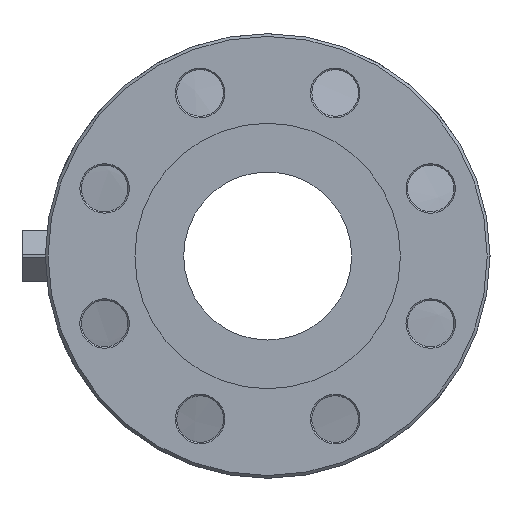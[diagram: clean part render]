
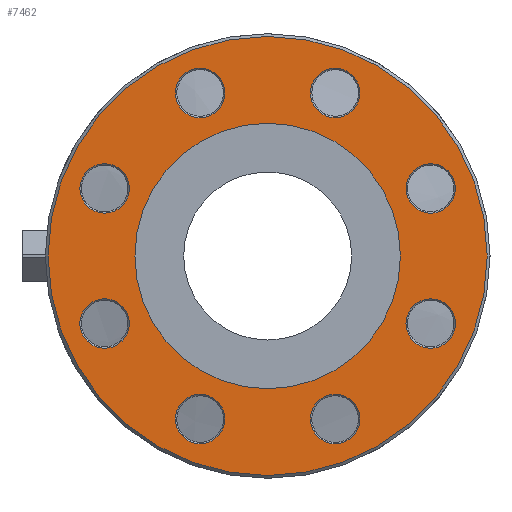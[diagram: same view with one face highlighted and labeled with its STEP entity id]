
A CAD part, left-side view. The second image highlights one B-rep face of the part: STEP entity #7462.
In plain terms, the highlighted planar face has unit normal (-1, 0, 0).
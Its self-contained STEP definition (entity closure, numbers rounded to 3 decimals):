
#7323=CARTESIAN_POINT('',(-137.,-60.21,-127.859));
#7324=VERTEX_POINT('',#7323);
#7325=CARTESIAN_POINT('',(-137.,-47.835,-115.485));
#7326=DIRECTION('',(-1.0,0.0,0.0));
#7327=DIRECTION('',(0.0,0.707,0.707));
#7328=AXIS2_PLACEMENT_3D('',#7325,#7326,#7327);
#7329=CIRCLE('',#7328,17.5);
#7330=EDGE_CURVE('',#7324,#7324,#7329,.T.);
#7355=CARTESIAN_POINT('',(-137.,-124.75,0.0));
#7356=DIRECTION('',(-1.0,0.0,0.0));
#7357=DIRECTION('',(0.0,0.0,1.0));
#7358=AXIS2_PLACEMENT_3D('',#7355,#7356,#7357);
#7359=PLANE('',#7358);
#7360=CARTESIAN_POINT('',(-137.,-155.5,0.0));
#7361=VERTEX_POINT('',#7360);
#7362=CARTESIAN_POINT('',(-137.,0.0,0.0));
#7363=DIRECTION('',(1.0,0.0,0.0));
#7364=DIRECTION('',(0.0,-1.0,0.0));
#7365=AXIS2_PLACEMENT_3D('',#7362,#7363,#7364);
#7366=CIRCLE('',#7365,155.5);
#7367=EDGE_CURVE('',#7361,#7361,#7366,.T.);
#7368=ORIENTED_EDGE('',*,*,#7367,.F.);
#7369=EDGE_LOOP('',(#7368));
#7370=FACE_OUTER_BOUND('',#7369,.T.);
#7371=CARTESIAN_POINT('',(-137.,-132.985,-47.835));
#7372=VERTEX_POINT('',#7371);
#7373=CARTESIAN_POINT('',(-137.,-115.485,-47.835));
#7374=DIRECTION('',(-1.0,0.0,0.0));
#7375=DIRECTION('',(0.0,1.0,0.0));
#7376=AXIS2_PLACEMENT_3D('',#7373,#7374,#7375);
#7377=CIRCLE('',#7376,17.5);
#7378=EDGE_CURVE('',#7372,#7372,#7377,.T.);
#7379=ORIENTED_EDGE('',*,*,#7378,.F.);
#7380=EDGE_LOOP('',(#7379));
#7381=FACE_BOUND('',#7380,.T.);
#7382=CARTESIAN_POINT('',(-137.,-47.835,132.985));
#7383=VERTEX_POINT('',#7382);
#7384=CARTESIAN_POINT('',(-137.,-47.835,115.485));
#7385=DIRECTION('',(-1.0,0.0,0.0));
#7386=DIRECTION('',(0.0,0.0,-1.0));
#7387=AXIS2_PLACEMENT_3D('',#7384,#7385,#7386);
#7388=CIRCLE('',#7387,17.5);
#7389=EDGE_CURVE('',#7383,#7383,#7388,.T.);
#7390=ORIENTED_EDGE('',*,*,#7389,.F.);
#7391=EDGE_LOOP('',(#7390));
#7392=FACE_BOUND('',#7391,.T.);
#7393=CARTESIAN_POINT('',(-137.,132.985,47.835));
#7394=VERTEX_POINT('',#7393);
#7395=CARTESIAN_POINT('',(-137.,115.485,47.835));
#7396=DIRECTION('',(-1.0,0.0,0.0));
#7397=DIRECTION('',(0.0,-1.0,0.0));
#7398=AXIS2_PLACEMENT_3D('',#7395,#7396,#7397);
#7399=CIRCLE('',#7398,17.5);
#7400=EDGE_CURVE('',#7394,#7394,#7399,.T.);
#7401=ORIENTED_EDGE('',*,*,#7400,.F.);
#7402=EDGE_LOOP('',(#7401));
#7403=FACE_BOUND('',#7402,.T.);
#7404=CARTESIAN_POINT('',(-137.,47.835,-132.985));
#7405=VERTEX_POINT('',#7404);
#7406=CARTESIAN_POINT('',(-137.,47.835,-115.485));
#7407=DIRECTION('',(-1.0,0.0,0.0));
#7408=DIRECTION('',(0.0,0.0,1.0));
#7409=AXIS2_PLACEMENT_3D('',#7406,#7407,#7408);
#7410=CIRCLE('',#7409,17.5);
#7411=EDGE_CURVE('',#7405,#7405,#7410,.T.);
#7412=ORIENTED_EDGE('',*,*,#7411,.F.);
#7413=EDGE_LOOP('',(#7412));
#7414=FACE_BOUND('',#7413,.T.);
#7415=CARTESIAN_POINT('',(-137.,-94.,0.0));
#7416=VERTEX_POINT('',#7415);
#7417=CARTESIAN_POINT('',(-137.,0.0,0.0));
#7418=DIRECTION('',(1.0,0.0,0.0));
#7419=DIRECTION('',(0.0,-1.0,0.0));
#7420=AXIS2_PLACEMENT_3D('',#7417,#7418,#7419);
#7421=CIRCLE('',#7420,94.);
#7422=EDGE_CURVE('',#7416,#7416,#7421,.T.);
#7423=ORIENTED_EDGE('',*,*,#7422,.T.);
#7424=EDGE_LOOP('',(#7423));
#7425=FACE_BOUND('',#7424,.T.);
#7426=CARTESIAN_POINT('',(-137.,127.859,-60.21));
#7427=VERTEX_POINT('',#7426);
#7428=CARTESIAN_POINT('',(-137.,115.485,-47.835));
#7429=DIRECTION('',(-1.0,0.0,0.0));
#7430=DIRECTION('',(0.0,-0.707,0.707));
#7431=AXIS2_PLACEMENT_3D('',#7428,#7429,#7430);
#7432=CIRCLE('',#7431,17.5);
#7433=EDGE_CURVE('',#7427,#7427,#7432,.T.);
#7434=ORIENTED_EDGE('',*,*,#7433,.F.);
#7435=EDGE_LOOP('',(#7434));
#7436=FACE_BOUND('',#7435,.T.);
#7437=CARTESIAN_POINT('',(-137.,60.21,127.859));
#7438=VERTEX_POINT('',#7437);
#7439=CARTESIAN_POINT('',(-137.,47.835,115.485));
#7440=DIRECTION('',(-1.0,0.0,0.0));
#7441=DIRECTION('',(0.0,-0.707,-0.707));
#7442=AXIS2_PLACEMENT_3D('',#7439,#7440,#7441);
#7443=CIRCLE('',#7442,17.5);
#7444=EDGE_CURVE('',#7438,#7438,#7443,.T.);
#7445=ORIENTED_EDGE('',*,*,#7444,.F.);
#7446=EDGE_LOOP('',(#7445));
#7447=FACE_BOUND('',#7446,.T.);
#7448=CARTESIAN_POINT('',(-137.,-127.859,60.21));
#7449=VERTEX_POINT('',#7448);
#7450=CARTESIAN_POINT('',(-137.,-115.485,47.835));
#7451=DIRECTION('',(-1.0,0.0,0.0));
#7452=DIRECTION('',(0.0,0.707,-0.707));
#7453=AXIS2_PLACEMENT_3D('',#7450,#7451,#7452);
#7454=CIRCLE('',#7453,17.5);
#7455=EDGE_CURVE('',#7449,#7449,#7454,.T.);
#7456=ORIENTED_EDGE('',*,*,#7455,.F.);
#7457=EDGE_LOOP('',(#7456));
#7458=FACE_BOUND('',#7457,.T.);
#7459=ORIENTED_EDGE('',*,*,#7330,.F.);
#7460=EDGE_LOOP('',(#7459));
#7461=FACE_BOUND('',#7460,.T.);
#7462=ADVANCED_FACE('',(#7370,#7381,#7392,#7403,#7414,#7425,#7436,#7447,#7458,#7461),#7359,.T.);
